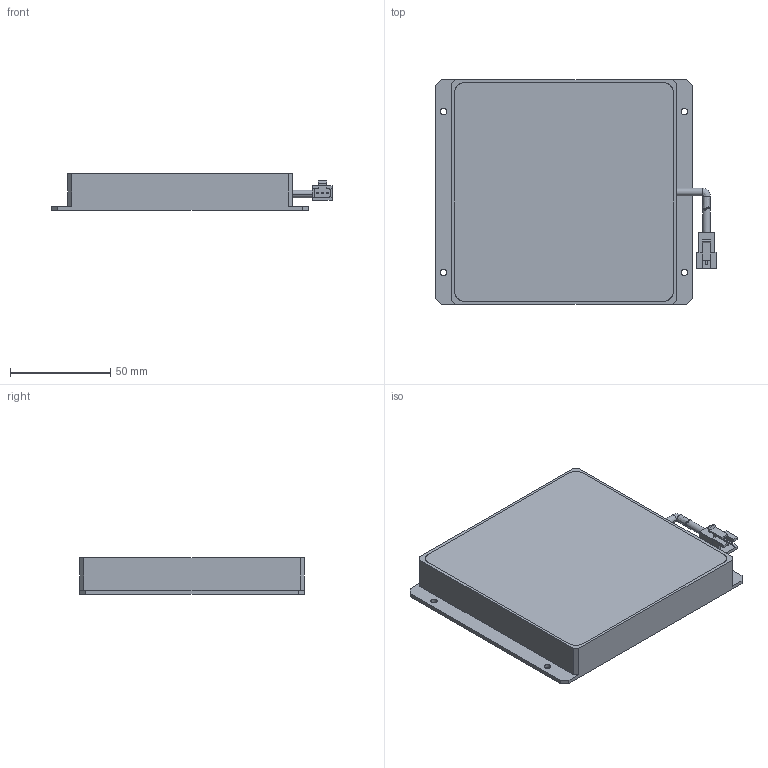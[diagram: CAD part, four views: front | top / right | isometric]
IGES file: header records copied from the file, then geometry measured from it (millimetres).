
Start section: SolidWorks IGES file using analytic representation for surfaces
Global section: file name: E:\SynologyDrive\新款图纸\标准产品\背光\F100100\ED\F100100.IGS; native system: SolidWorks 2021; preprocessor: SolidWorks 2021; author: Administrator; date: 210717.105653; units: millimetre
Bounding box: 140 x 112 x 18 mm (x, y, z)
Surface area: 69545 mm2 (no closed solid volume)
Topology: 0 solids, 0 shells, 128 faces, 1204 edges, 1204 vertices
Faces by surface type: bspline 98, revolution 30
